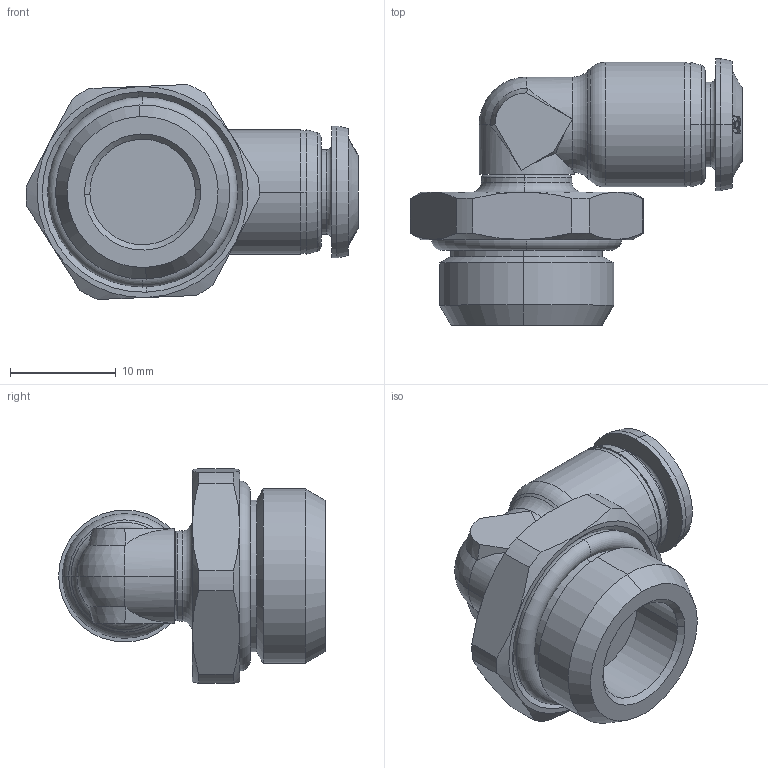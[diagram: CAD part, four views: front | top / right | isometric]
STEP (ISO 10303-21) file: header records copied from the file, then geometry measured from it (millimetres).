
FILE_DESCRIPTION (( 'STEP AP214' ), '1' );
FILE_NAME ('5511600015.step', '2012-10-02T17:36:54', ( '' ), ( '' ), 'SwSTEP 2.0', 'SolidWorks 2012', '' );
FILE_SCHEMA (( 'AUTOMOTIVE_DESIGN' ));
Length unit declared in the file: millimetre
Products named in the file (1): 5511600015
Bounding box: 31.45 x 25.25 x 20.36 mm (x, y, z)
Volume: 4805.9 mm3; surface area: 3200.3 mm2
Topology: 2 solids, 2 shells, 188 faces, 442 edges, 272 vertices
Faces by surface type: cone 53, bspline 47, plane 34, cylinder 28, torus 24, sphere 2
Entity records: 10522 total; most frequent: CARTESIAN_POINT 4558, ORIENTED_EDGE 884, DIRECTION 676, EDGE_CURVE 442, AXIS2_PLACEMENT_3D 295, VERTEX_POINT 272, EDGE_LOOP 204, UNCERTAINTY_MEASURE_WITH_UNIT 190
